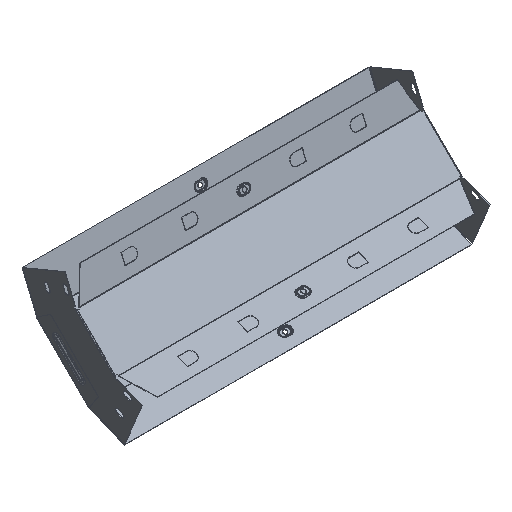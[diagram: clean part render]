
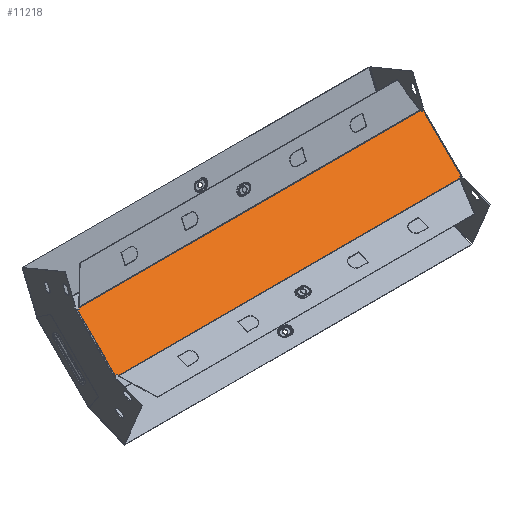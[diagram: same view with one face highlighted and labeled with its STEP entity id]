
A CAD part, isometric view. The second image highlights one B-rep face of the part: STEP entity #11218.
In plain terms, the highlighted planar face has unit normal (0, -0.707, 0.707).
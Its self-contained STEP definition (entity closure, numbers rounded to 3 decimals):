
#349 = EDGE_CURVE ( 'NONE', #4683, #10612, #5865, .T. ) ;
#535 = CARTESIAN_POINT ( 'NONE',  ( 300.299, 2.258, -69.859 ) ) ;
#688 = EDGE_CURVE ( 'NONE', #3308, #4112, #12607, .T. ) ;
#873 = CARTESIAN_POINT ( 'NONE',  ( 295.217, 3.747, -68.371 ) ) ;
#877 = VERTEX_POINT ( 'NONE', #2606 ) ;
#955 = EDGE_CURVE ( 'NONE', #4112, #5765, #10584, .T. ) ;
#1036 = CARTESIAN_POINT ( 'NONE',  ( -295.217, 3.747, -68.371 ) ) ;
#1152 = CARTESIAN_POINT ( 'NONE',  ( -298.2, 69.245, -2.873 ) ) ;
#1301 = EDGE_CURVE ( 'NONE', #6884, #3308, #7215, .T. ) ;
#1324 = LINE ( 'NONE', #7258, #6255 ) ;
#1461 = CARTESIAN_POINT ( 'NONE',  ( 295.217, 68.371, -3.747 ) ) ;
#1625 = CARTESIAN_POINT ( 'NONE',  ( -300.299, 69.859, -2.258 ) ) ;
#1755 = CARTESIAN_POINT ( 'NONE',  ( 298.2, 2.258, -69.859 ) ) ;
#2060 = LINE ( 'NONE', #10363, #4828 ) ;
#2147 = EDGE_CURVE ( 'NONE', #10704, #4910, #4690, .T. ) ;
#2231 = ORIENTED_EDGE ( 'NONE', *, *, #3656, .T. ) ;
#2462 = VECTOR ( 'NONE', #7776, 1000. ) ;
#2564 = ORIENTED_EDGE ( 'NONE', *, *, #10405, .F. ) ;
#2581 = VERTEX_POINT ( 'NONE', #7135 ) ;
#2594 = LINE ( 'NONE', #4701, #11493 ) ;
#2606 = CARTESIAN_POINT ( 'NONE',  ( -298.2, 2.873, -69.245 ) ) ;
#2787 = DIRECTION ( 'NONE',  ( -1., 0., 0. ) ) ;
#3065 = VECTOR ( 'NONE', #6759, 1000. ) ;
#3308 = VERTEX_POINT ( 'NONE', #1461 ) ;
#3656 = EDGE_CURVE ( 'NONE', #2581, #9412, #10805, .T. ) ;
#3761 = ORIENTED_EDGE ( 'NONE', *, *, #1301, .T. ) ;
#4109 = VECTOR ( 'NONE', #8620, 1000. ) ;
#4112 = VERTEX_POINT ( 'NONE', #8379 ) ;
#4126 = CARTESIAN_POINT ( 'NONE',  ( -295.217, 68.371, -3.747 ) ) ;
#4683 = VERTEX_POINT ( 'NONE', #873 ) ;
#4690 = LINE ( 'NONE', #1625, #10375 ) ;
#4701 = CARTESIAN_POINT ( 'NONE',  ( 298.2, 70., -2.118 ) ) ;
#4762 = VECTOR ( 'NONE', #9079, 1000. ) ;
#4802 = DIRECTION ( 'NONE',  ( -1., 0., 0. ) ) ;
#4828 = VECTOR ( 'NONE', #11365, 1000. ) ;
#4910 = VERTEX_POINT ( 'NONE', #1152 ) ;
#5105 = EDGE_CURVE ( 'NONE', #4910, #877, #12452, .T. ) ;
#5765 = VERTEX_POINT ( 'NONE', #7491 ) ;
#5865 = LINE ( 'NONE', #535, #7727 ) ;
#6087 = ORIENTED_EDGE ( 'NONE', *, *, #2147, .T. ) ;
#6180 = VECTOR ( 'NONE', #2787, 1000. ) ;
#6255 = VECTOR ( 'NONE', #12207, 1000. ) ;
#6759 = DIRECTION ( 'NONE',  ( 0.383, 0.653, 0.653 ) ) ;
#6884 = VERTEX_POINT ( 'NONE', #12368 ) ;
#7019 = CARTESIAN_POINT ( 'NONE',  ( 298.2, 70., -2.118 ) ) ;
#7135 = CARTESIAN_POINT ( 'NONE',  ( -295.217, 3.747, -68.371 ) ) ;
#7215 = LINE ( 'NONE', #12463, #4109 ) ;
#7258 = CARTESIAN_POINT ( 'NONE',  ( -295.217, 68.371, -3.747 ) ) ;
#7491 = CARTESIAN_POINT ( 'NONE',  ( -294.345, 69.859, -2.258 ) ) ;
#7501 = AXIS2_PLACEMENT_3D ( 'NONE', #7019, #9841, #11799 ) ;
#7590 = DIRECTION ( 'NONE',  ( 0.924, -0.271, -0.271 ) ) ;
#7691 = CARTESIAN_POINT ( 'NONE',  ( -298.2, 70., -2.118 ) ) ;
#7727 = VECTOR ( 'NONE', #7590, 1000. ) ;
#7776 = DIRECTION ( 'NONE',  ( 0., -0.707, -0.707 ) ) ;
#7863 = ORIENTED_EDGE ( 'NONE', *, *, #349, .T. ) ;
#8041 = EDGE_CURVE ( 'NONE', #5765, #10704, #1324, .T. ) ;
#8107 = CARTESIAN_POINT ( 'NONE',  ( 273.5, 105.445, 33.327 ) ) ;
#8379 = CARTESIAN_POINT ( 'NONE',  ( 294.345, 69.859, -2.258 ) ) ;
#8620 = DIRECTION ( 'NONE',  ( -0.924, -0.271, -0.271 ) ) ;
#8644 = CARTESIAN_POINT ( 'NONE',  ( 273.5, -33.327, -105.445 ) ) ;
#8813 = CARTESIAN_POINT ( 'NONE',  ( 298.2, 69.859, -2.258 ) ) ;
#8880 = ORIENTED_EDGE ( 'NONE', *, *, #5105, .T. ) ;
#8926 = CARTESIAN_POINT ( 'NONE',  ( 298.2, 2.873, -69.245 ) ) ;
#8932 = EDGE_CURVE ( 'NONE', #877, #2581, #2060, .T. ) ;
#9079 = DIRECTION ( 'NONE',  ( -0.383, 0.653, 0.653 ) ) ;
#9400 = DIRECTION ( 'NONE',  ( 0., -0.707, -0.707 ) ) ;
#9412 = VERTEX_POINT ( 'NONE', #11120 ) ;
#9566 = LINE ( 'NONE', #1755, #6180 ) ;
#9633 = DIRECTION ( 'NONE',  ( -0.924, 0.271, 0.271 ) ) ;
#9790 = PLANE ( 'NONE',  #7501 ) ;
#9839 = VERTEX_POINT ( 'NONE', #9868 ) ;
#9841 = DIRECTION ( 'NONE',  ( 0., 0.707, -0.707 ) ) ;
#9868 = CARTESIAN_POINT ( 'NONE',  ( 294.345, 2.258, -69.859 ) ) ;
#9918 = DIRECTION ( 'NONE',  ( 0.383, -0.653, -0.653 ) ) ;
#10143 = FACE_OUTER_BOUND ( 'NONE', #10435, .T. ) ;
#10332 = VECTOR ( 'NONE', #9918, 1000. ) ;
#10363 = CARTESIAN_POINT ( 'NONE',  ( -300.299, 2.258, -69.859 ) ) ;
#10375 = VECTOR ( 'NONE', #9633, 1000. ) ;
#10405 = EDGE_CURVE ( 'NONE', #9839, #9412, #9566, .T. ) ;
#10435 = EDGE_LOOP ( 'NONE', ( #11094, #7863, #12415, #3761, #11156, #11952, #11364, #6087, #8880, #10546, #2231, #2564 ) ) ;
#10546 = ORIENTED_EDGE ( 'NONE', *, *, #8932, .T. ) ;
#10584 = LINE ( 'NONE', #8813, #12120 ) ;
#10612 = VERTEX_POINT ( 'NONE', #8926 ) ;
#10704 = VERTEX_POINT ( 'NONE', #4126 ) ;
#10805 = LINE ( 'NONE', #1036, #10332 ) ;
#11094 = ORIENTED_EDGE ( 'NONE', *, *, #11523, .T. ) ;
#11120 = CARTESIAN_POINT ( 'NONE',  ( -294.345, 2.258, -69.859 ) ) ;
#11156 = ORIENTED_EDGE ( 'NONE', *, *, #688, .T. ) ;
#11218 = ADVANCED_FACE ( 'NONE', ( #10143 ), #9790, .F. ) ;
#11364 = ORIENTED_EDGE ( 'NONE', *, *, #8041, .T. ) ;
#11365 = DIRECTION ( 'NONE',  ( 0.924, 0.271, 0.271 ) ) ;
#11493 = VECTOR ( 'NONE', #9400, 1000. ) ;
#11523 = EDGE_CURVE ( 'NONE', #9839, #4683, #11673, .T. ) ;
#11673 = LINE ( 'NONE', #8644, #3065 ) ;
#11799 = DIRECTION ( 'NONE',  ( 0., 0.707, 0.707 ) ) ;
#11952 = ORIENTED_EDGE ( 'NONE', *, *, #955, .T. ) ;
#12074 = EDGE_CURVE ( 'NONE', #6884, #10612, #2594, .T. ) ;
#12120 = VECTOR ( 'NONE', #4802, 1000. ) ;
#12207 = DIRECTION ( 'NONE',  ( -0.383, -0.653, -0.653 ) ) ;
#12368 = CARTESIAN_POINT ( 'NONE',  ( 298.2, 69.245, -2.873 ) ) ;
#12415 = ORIENTED_EDGE ( 'NONE', *, *, #12074, .F. ) ;
#12452 = LINE ( 'NONE', #7691, #2462 ) ;
#12463 = CARTESIAN_POINT ( 'NONE',  ( 300.299, 69.859, -2.258 ) ) ;
#12607 = LINE ( 'NONE', #8107, #4762 ) ;
